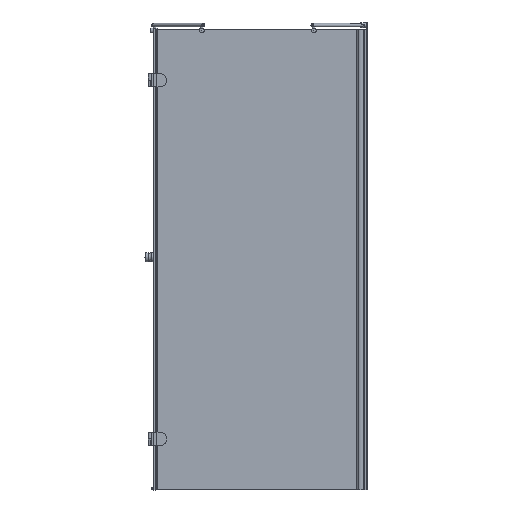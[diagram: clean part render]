
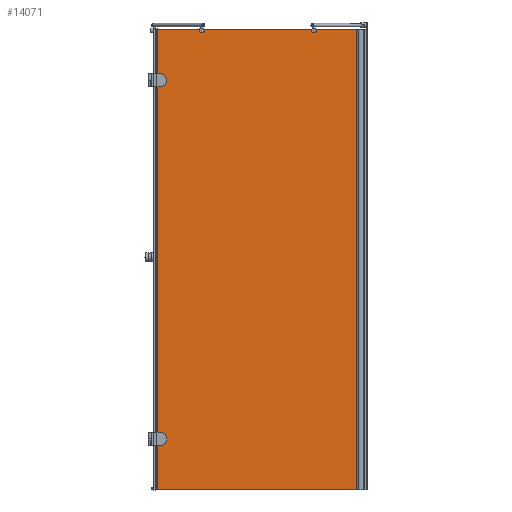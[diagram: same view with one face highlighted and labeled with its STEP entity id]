
A CAD part, front view. The second image highlights one B-rep face of the part: STEP entity #14071.
In plain terms, the highlighted planar face has unit normal (0, -1, 0).
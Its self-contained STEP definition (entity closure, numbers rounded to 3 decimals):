
#366=LINE($,#21228,#1709);
#367=LINE($,#21230,#1710);
#368=LINE($,#21232,#1711);
#369=LINE($,#21234,#1712);
#370=LINE($,#21236,#1713);
#371=LINE($,#21238,#1714);
#372=LINE($,#21240,#1715);
#373=LINE($,#21242,#1716);
#374=LINE($,#21244,#1717);
#375=LINE($,#21246,#1718);
#376=LINE($,#21248,#1719);
#377=LINE($,#21250,#1720);
#378=LINE($,#21253,#1721);
#1709=VECTOR($,#17009,174.231);
#1710=VECTOR($,#17010,1900.);
#1711=VECTOR($,#17011,2.557);
#1712=VECTOR($,#17012,1900.);
#1713=VECTOR($,#17013,2.443);
#1714=VECTOR($,#17014,1900.);
#1715=VECTOR($,#17015,1.);
#1716=VECTOR($,#17016,825.698);
#1717=VECTOR($,#17017,1900.);
#1718=VECTOR($,#17018,14.302);
#1719=VECTOR($,#17019,1.);
#1720=VECTOR($,#17020,180.474);
#1721=VECTOR($,#17023,444.574);
#3154=FACE_BOUND($,#4295,.T.);
#3155=FACE_BOUND($,#4296,.T.);
#3156=FACE_BOUND($,#4297,.T.);
#4295=EDGE_LOOP($,(#9509));
#4296=EDGE_LOOP($,(#9510));
#4297=EDGE_LOOP($,(#9511,#9512,#9513,#9514,#9515,#9516,#9517,#9518,#9519,
#9520,#9521,#9522,#9523,#9524,#9525));
#5015=CIRCLE($,#14848,5.5);
#5033=CIRCLE($,#14888,5.5);
#5089=CIRCLE($,#15010,10.);
#5102=CIRCLE($,#15034,10.);
#5639=VERTEX_POINT($,#20584);
#5669=VERTEX_POINT($,#20674);
#5766=VERTEX_POINT($,#20993);
#5767=VERTEX_POINT($,#20995);
#5788=VERTEX_POINT($,#21227);
#5789=VERTEX_POINT($,#21229);
#5790=VERTEX_POINT($,#21231);
#5791=VERTEX_POINT($,#21233);
#5792=VERTEX_POINT($,#21235);
#5793=VERTEX_POINT($,#21237);
#5794=VERTEX_POINT($,#21239);
#5795=VERTEX_POINT($,#21241);
#5796=VERTEX_POINT($,#21243);
#5797=VERTEX_POINT($,#21245);
#5798=VERTEX_POINT($,#21247);
#5799=VERTEX_POINT($,#21249);
#5800=VERTEX_POINT($,#21251);
#6987=EDGE_CURVE($,#5639,#5639,#5015,.T.);
#7025=EDGE_CURVE($,#5669,#5669,#5033,.T.);
#7146=EDGE_CURVE($,#5766,#5767,#5089,.T.);
#7170=EDGE_CURVE($,#5788,#5766,#366,.T.);
#7171=EDGE_CURVE($,#5789,#5788,#367,.T.);
#7172=EDGE_CURVE($,#5790,#5789,#368,.T.);
#7173=EDGE_CURVE($,#5791,#5790,#369,.T.);
#7174=EDGE_CURVE($,#5792,#5791,#370,.T.);
#7175=EDGE_CURVE($,#5792,#5793,#371,.T.);
#7176=EDGE_CURVE($,#5793,#5794,#372,.T.);
#7177=EDGE_CURVE($,#5794,#5795,#373,.T.);
#7178=EDGE_CURVE($,#5795,#5796,#374,.T.);
#7179=EDGE_CURVE($,#5797,#5796,#375,.T.);
#7180=EDGE_CURVE($,#5798,#5797,#376,.T.);
#7181=EDGE_CURVE($,#5799,#5798,#377,.T.);
#7182=EDGE_CURVE($,#5800,#5799,#5102,.T.);
#7183=EDGE_CURVE($,#5767,#5800,#378,.T.);
#9509=ORIENTED_EDGE($,*,*,#6987,.F.);
#9510=ORIENTED_EDGE($,*,*,#7025,.F.);
#9511=ORIENTED_EDGE($,*,*,#7146,.F.);
#9512=ORIENTED_EDGE($,*,*,#7170,.F.);
#9513=ORIENTED_EDGE($,*,*,#7171,.F.);
#9514=ORIENTED_EDGE($,*,*,#7172,.F.);
#9515=ORIENTED_EDGE($,*,*,#7173,.F.);
#9516=ORIENTED_EDGE($,*,*,#7174,.F.);
#9517=ORIENTED_EDGE($,*,*,#7175,.T.);
#9518=ORIENTED_EDGE($,*,*,#7176,.T.);
#9519=ORIENTED_EDGE($,*,*,#7177,.T.);
#9520=ORIENTED_EDGE($,*,*,#7178,.T.);
#9521=ORIENTED_EDGE($,*,*,#7179,.F.);
#9522=ORIENTED_EDGE($,*,*,#7180,.F.);
#9523=ORIENTED_EDGE($,*,*,#7181,.F.);
#9524=ORIENTED_EDGE($,*,*,#7182,.F.);
#9525=ORIENTED_EDGE($,*,*,#7183,.F.);
#12648=PLANE($,#15033);
#14071=ADVANCED_FACE($,(#3154,#3155,#3156),#12648,.F.);
#14848=AXIS2_PLACEMENT_3D($,#20585,#16553,#16554);
#14888=AXIS2_PLACEMENT_3D($,#20675,#16653,#16654);
#15010=AXIS2_PLACEMENT_3D($,#20996,#16958,#16959);
#15033=AXIS2_PLACEMENT_3D($,#21226,#17007,#17008);
#15034=AXIS2_PLACEMENT_3D($,#21252,#17021,#17022);
#16553=DIRECTION('center_axis',(0.,-1.,0.));
#16554=DIRECTION('ref_axis',(-1.,0.,0.));
#16653=DIRECTION('center_axis',(0.,-1.,0.));
#16654=DIRECTION('ref_axis',(-1.,0.,0.));
#16958=DIRECTION('center_axis',(0.,-1.,0.));
#16959=DIRECTION('ref_axis',(0.947,0.,-0.322));
#17007=DIRECTION('center_axis',(0.,1.,0.));
#17008=DIRECTION('ref_axis',(1.,0.,0.));
#17009=DIRECTION($,(1.,0.,0.));
#17010=DIRECTION($,(0.,0.,1.));
#17011=DIRECTION($,(1.,0.,0.));
#17012=DIRECTION($,(0.,0.,-1.));
#17013=DIRECTION($,(1.,0.,0.));
#17014=DIRECTION($,(0.,0.,-1.));
#17015=DIRECTION($,(0.,0.,-1.));
#17016=DIRECTION($,(1.,0.,0.));
#17017=DIRECTION($,(0.,0.,1.));
#17018=DIRECTION($,(-1.,0.,0.));
#17019=DIRECTION($,(0.,0.,-1.));
#17020=DIRECTION($,(1.,0.,0.));
#17021=DIRECTION('center_axis',(0.,-1.,0.));
#17022=DIRECTION('ref_axis',(0.597,0.,0.802));
#17023=DIRECTION($,(1.,0.,0.));
#20584=CARTESIAN_POINT('',(1865.5,-334.044,-304.056));
#20585=CARTESIAN_POINT('Origin',(1860.,-334.044,-304.056));
#20674=CARTESIAN_POINT('',(1865.5,-334.044,1175.944));
#20675=CARTESIAN_POINT('Origin',(1860.,-334.044,1175.944));
#20993=CARTESIAN_POINT('',(2017.231,-334.044,1385.944));
#20995=CARTESIAN_POINT('',(2035.092,-334.044,1385.944));
#20996=CARTESIAN_POINT('Origin',(2026.161,-334.044,1381.444));
#21226=CARTESIAN_POINT('Origin',(1838.,-334.044,1385.944));
#21227=CARTESIAN_POINT('',(1843.,-334.044,1385.944));
#21228=CARTESIAN_POINT($,(1838.,-334.044,1385.944));
#21229=CARTESIAN_POINT('',(1843.,-334.044,-514.056));
#21230=CARTESIAN_POINT($,(1843.,-334.044,435.944));
#21231=CARTESIAN_POINT('',(1840.443,-334.044,-514.056));
#21232=CARTESIAN_POINT($,(1840.117,-334.044,-514.056));
#21233=CARTESIAN_POINT('',(1840.443,-334.044,1385.944));
#21234=CARTESIAN_POINT($,(1840.443,-334.044,435.944));
#21235=CARTESIAN_POINT('',(1838.,-334.044,1385.944));
#21236=CARTESIAN_POINT($,(1838.,-334.044,1385.944));
#21237=CARTESIAN_POINT('',(1838.,-334.044,-514.056));
#21238=CARTESIAN_POINT($,(1838.,-334.044,1385.944));
#21239=CARTESIAN_POINT('',(1838.,-334.044,-515.056));
#21240=CARTESIAN_POINT($,(1838.,-334.044,1385.944));
#21241=CARTESIAN_POINT('',(2663.698,-334.044,-515.056));
#21242=CARTESIAN_POINT($,(1838.,-334.044,-515.056));
#21243=CARTESIAN_POINT('',(2663.698,-334.044,1384.944));
#21244=CARTESIAN_POINT($,(2663.698,-334.044,-515.056));
#21245=CARTESIAN_POINT('',(2678.,-334.044,1384.944));
#21246=CARTESIAN_POINT($,(2259.518,-334.044,1384.944));
#21247=CARTESIAN_POINT('',(2678.,-334.044,1385.944));
#21248=CARTESIAN_POINT($,(2678.,-334.044,1385.944));
#21249=CARTESIAN_POINT('',(2497.526,-334.044,1385.944));
#21250=CARTESIAN_POINT($,(1838.,-334.044,1385.944));
#21251=CARTESIAN_POINT('',(2479.666,-334.044,1385.944));
#21252=CARTESIAN_POINT('Origin',(2488.596,-334.044,1381.444));
#21253=CARTESIAN_POINT($,(1838.,-334.044,1385.944));
